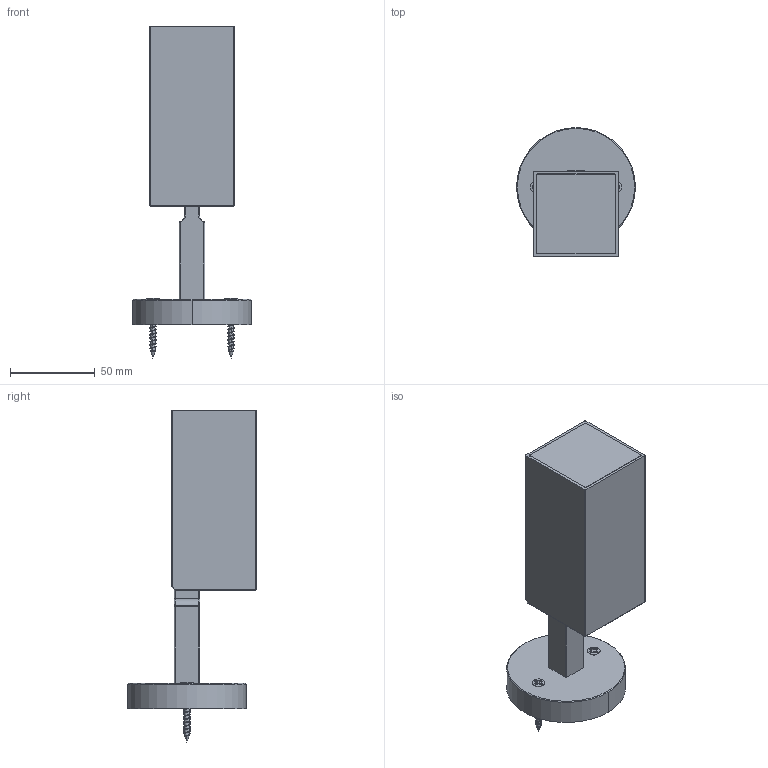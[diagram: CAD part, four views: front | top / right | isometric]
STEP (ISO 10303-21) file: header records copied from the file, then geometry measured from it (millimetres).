
FILE_DESCRIPTION((''),'2;1');
FILE_NAME('POWER_MURO_SW0001','2026-04-02T16:57:58',('Piccioli'),(''),'CREO PARAMETRIC BY PTC INC, 2025010','CREO PARAMETRIC BY PTC INC, 2025010','');
FILE_SCHEMA(('CONFIG_CONTROL_DESIGN'));
Length unit declared in the file: millimetre
Products named in the file (1): POWER_MURO_SW0001
Bounding box: 70 x 76 x 195.59 mm (x, y, z)
Surface area: 44776.4 mm2 (no closed solid volume)
Topology: 0 solids, 9 shells, 190 faces, 511 edges, 326 vertices
Faces by surface type: cylinder 98, plane 48, sphere 14, bspline 12, cone 10, torus 8
Entity records: 12407 total; most frequent: CARTESIAN_POINT 7953, ORIENTED_EDGE 912, DIRECTION 853, EDGE_CURVE 507, VERTEX_POINT 326, AXIS2_PLACEMENT_3D 316, VECTOR 221, LINE 221
